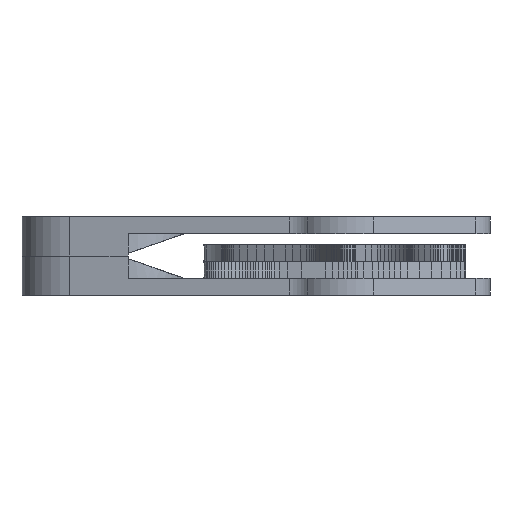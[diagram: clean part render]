
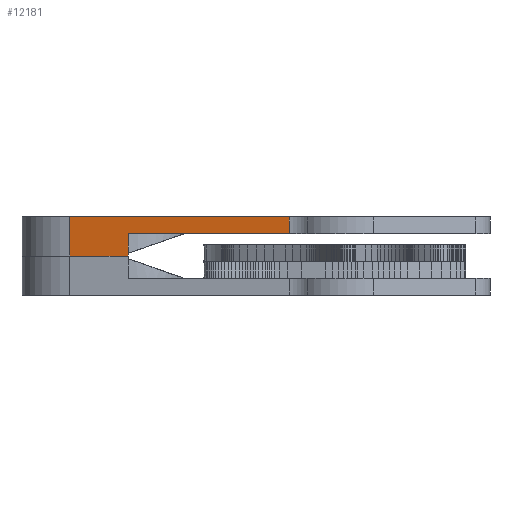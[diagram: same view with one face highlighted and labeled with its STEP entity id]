
A CAD part, left-side view. The second image highlights one B-rep face of the part: STEP entity #12181.
In plain terms, the highlighted planar face has unit normal (-0.979, 0.203, 0) as drawn and (0.979, -0.204, 0) by its records, which use the part's own axes.
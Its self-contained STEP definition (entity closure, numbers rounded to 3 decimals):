
#172=PLANE('',#12880);
#737=FACE_OUTER_BOUND('',#1361,.T.);
#1361=EDGE_LOOP('',(#8602,#8603,#8604,#8605,#8606,#8607,#8608));
#1971=LINE('',#16593,#3645);
#1974=LINE('',#16599,#3648);
#2007=LINE('',#16848,#3681);
#2013=LINE('',#16873,#3687);
#2021=LINE('',#16945,#3695);
#2022=LINE('',#16949,#3696);
#2023=LINE('',#16950,#3697);
#3645=VECTOR('',#13531,10.);
#3648=VECTOR('',#13536,10.);
#3681=VECTOR('',#13635,10.);
#3687=VECTOR('',#13665,10.);
#3695=VECTOR('',#13687,52.844);
#3696=VECTOR('',#13692,10.);
#3697=VECTOR('',#13693,52.844);
#5410=VERTEX_POINT('',#16590);
#5411=VERTEX_POINT('',#16592);
#5413=VERTEX_POINT('',#16598);
#5456=VERTEX_POINT('',#16845);
#5457=VERTEX_POINT('',#16847);
#5470=VERTEX_POINT('',#16944);
#5471=VERTEX_POINT('',#16948);
#6628=EDGE_CURVE('',#5410,#5411,#1971,.T.);
#6631=EDGE_CURVE('',#5411,#5413,#1974,.T.);
#6690=EDGE_CURVE('',#5457,#5456,#2007,.T.);
#6703=EDGE_CURVE('',#5457,#5410,#2013,.T.);
#6715=EDGE_CURVE('',#5470,#5456,#2021,.T.);
#6717=EDGE_CURVE('',#5471,#5413,#2022,.T.);
#6718=EDGE_CURVE('',#5470,#5471,#2023,.T.);
#8602=ORIENTED_EDGE('',*,*,#6717,.T.);
#8603=ORIENTED_EDGE('',*,*,#6631,.F.);
#8604=ORIENTED_EDGE('',*,*,#6628,.F.);
#8605=ORIENTED_EDGE('',*,*,#6703,.F.);
#8606=ORIENTED_EDGE('',*,*,#6690,.T.);
#8607=ORIENTED_EDGE('',*,*,#6715,.F.);
#8608=ORIENTED_EDGE('',*,*,#6718,.T.);
#12181=ADVANCED_FACE('',(#737),#172,.T.);
#12880=AXIS2_PLACEMENT_3D('',#16947,#13690,#13691);
#13531=DIRECTION('',(0.,0.,-1.));
#13536=DIRECTION('',(-0.204,-0.979,0.));
#13635=DIRECTION('',(0.204,0.979,0.));
#13665=DIRECTION('',(0.,0.,-1.));
#13687=DIRECTION('',(0.,0.,-1.));
#13690=DIRECTION('center_axis',(0.979,-0.204,0.));
#13691=DIRECTION('ref_axis',(-0.204,-0.979,0.));
#13692=DIRECTION('',(0.,0.,-1.));
#13693=DIRECTION('',(-0.204,-0.979,0.));
#16590=CARTESIAN_POINT('',(-117.422,52.813,-5.381));
#16592=CARTESIAN_POINT('',(-117.422,52.813,-5.881));
#16593=CARTESIAN_POINT('',(-117.422,52.813,-5.381));
#16598=CARTESIAN_POINT('',(-119.604,42.318,-5.881));
#16599=CARTESIAN_POINT('',(-111.434,81.618,-5.881));
#16845=CARTESIAN_POINT('',(-111.434,81.618,-1.881));
#16847=CARTESIAN_POINT('',(-117.422,52.813,-1.881));
#16848=CARTESIAN_POINT('',(-112.167,78.091,-1.881));
#16873=CARTESIAN_POINT('',(-117.422,52.813,-1.881));
#16944=CARTESIAN_POINT('',(-111.434,81.618,1.119));
#16945=CARTESIAN_POINT('',(-111.434,81.618,1.119));
#16947=CARTESIAN_POINT('Origin',(-111.434,81.618,1.119));
#16948=CARTESIAN_POINT('',(-119.604,42.318,1.119));
#16949=CARTESIAN_POINT('',(-119.604,42.318,-1.881));
#16950=CARTESIAN_POINT('',(-111.434,81.618,1.119));
